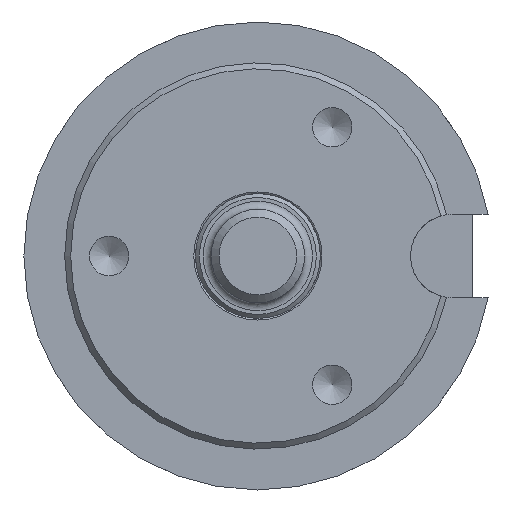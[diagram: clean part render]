
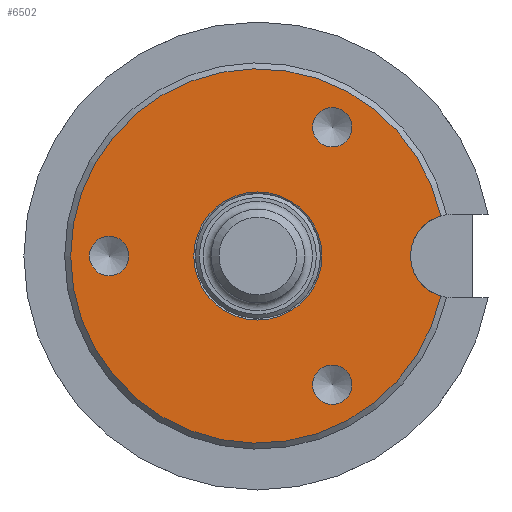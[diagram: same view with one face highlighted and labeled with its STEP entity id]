
A CAD part, left-side view. The second image highlights one B-rep face of the part: STEP entity #6502.
In plain terms, the highlighted planar face has unit normal (-1, 0, 0).
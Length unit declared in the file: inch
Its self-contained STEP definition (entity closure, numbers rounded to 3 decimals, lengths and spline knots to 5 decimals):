
#38=FACE_BOUND('',#2245,.T.);
#39=FACE_BOUND('',#2246,.T.);
#40=FACE_BOUND('',#2247,.T.);
#41=FACE_BOUND('',#2248,.T.);
#916=PLANE('',#6822);
#1855=FACE_OUTER_BOUND('',#2244,.T.);
#2244=EDGE_LOOP('',(#5545,#5546));
#2245=EDGE_LOOP('',(#5547));
#2246=EDGE_LOOP('',(#5548));
#2247=EDGE_LOOP('',(#5549));
#2248=EDGE_LOOP('',(#5550));
#2454=CIRCLE('',#6823,0.472);
#2455=CIRCLE('',#6824,0.105);
#2456=CIRCLE('',#6825,0.04978);
#2457=CIRCLE('',#6826,0.04978);
#2458=CIRCLE('',#6827,0.04978);
#2459=CIRCLE('',#6828,0.1615);
#2937=VERTEX_POINT('',#16970);
#2938=VERTEX_POINT('',#16971);
#2939=VERTEX_POINT('',#16974);
#2940=VERTEX_POINT('',#16976);
#2941=VERTEX_POINT('',#16978);
#2942=VERTEX_POINT('',#16980);
#3846=EDGE_CURVE('',#2937,#2938,#2454,.T.);
#3847=EDGE_CURVE('',#2937,#2938,#2455,.T.);
#3848=EDGE_CURVE('',#2939,#2939,#2456,.T.);
#3849=EDGE_CURVE('',#2940,#2940,#2457,.T.);
#3850=EDGE_CURVE('',#2941,#2941,#2458,.T.);
#3851=EDGE_CURVE('',#2942,#2942,#2459,.T.);
#5545=ORIENTED_EDGE('',*,*,#3846,.F.);
#5546=ORIENTED_EDGE('',*,*,#3847,.T.);
#5547=ORIENTED_EDGE('',*,*,#3848,.T.);
#5548=ORIENTED_EDGE('',*,*,#3849,.T.);
#5549=ORIENTED_EDGE('',*,*,#3850,.T.);
#5550=ORIENTED_EDGE('',*,*,#3851,.T.);
#6502=ADVANCED_FACE('',(#1855,#38,#39,#40,#41),#916,.T.);
#6822=AXIS2_PLACEMENT_3D('',#16969,#7471,#7472);
#6823=AXIS2_PLACEMENT_3D('',#16972,#7473,#7474);
#6824=AXIS2_PLACEMENT_3D('',#16973,#7475,#7476);
#6825=AXIS2_PLACEMENT_3D('',#16975,#7477,#7478);
#6826=AXIS2_PLACEMENT_3D('',#16977,#7479,#7480);
#6827=AXIS2_PLACEMENT_3D('',#16979,#7481,#7482);
#6828=AXIS2_PLACEMENT_3D('',#16981,#7483,#7484);
#7471=DIRECTION('center_axis',(-1.,0.,0.));
#7472=DIRECTION('ref_axis',(0.,0.,1.));
#7473=DIRECTION('center_axis',(1.,0.,0.));
#7474=DIRECTION('ref_axis',(0.,1.,0.));
#7475=DIRECTION('center_axis',(1.,0.,0.));
#7476=DIRECTION('ref_axis',(0.,0.,1.));
#7477=DIRECTION('center_axis',(1.,0.,0.));
#7478=DIRECTION('ref_axis',(0.,-1.,0.));
#7479=DIRECTION('center_axis',(1.,0.,0.));
#7480=DIRECTION('ref_axis',(0.,-1.,0.));
#7481=DIRECTION('center_axis',(1.,0.,0.));
#7482=DIRECTION('ref_axis',(0.,-1.,0.));
#7483=DIRECTION('center_axis',(1.,0.,0.));
#7484=DIRECTION('ref_axis',(0.,0.,-1.));
#16969=CARTESIAN_POINT('Origin',(0.,0.487,0.));
#16970=CARTESIAN_POINT('',(0.,-0.46108,-0.10094));
#16971=CARTESIAN_POINT('',(0.,-0.46108,0.10094));
#16972=CARTESIAN_POINT('Origin',(0.,0.,0.));
#16973=CARTESIAN_POINT('Origin',(0.,-0.49,0.));
#16974=CARTESIAN_POINT('',(0.,-0.13772,-0.32476));
#16975=CARTESIAN_POINT('Origin',(0.,-0.1875,-0.32476));
#16976=CARTESIAN_POINT('',(0.,0.42478,0.));
#16977=CARTESIAN_POINT('Origin',(0.,0.375,0.));
#16978=CARTESIAN_POINT('',(0.,-0.13772,0.32476));
#16979=CARTESIAN_POINT('Origin',(0.,-0.1875,0.32476));
#16980=CARTESIAN_POINT('',(0.,-0.1615,0.));
#16981=CARTESIAN_POINT('Origin',(0.,0.,0.));
